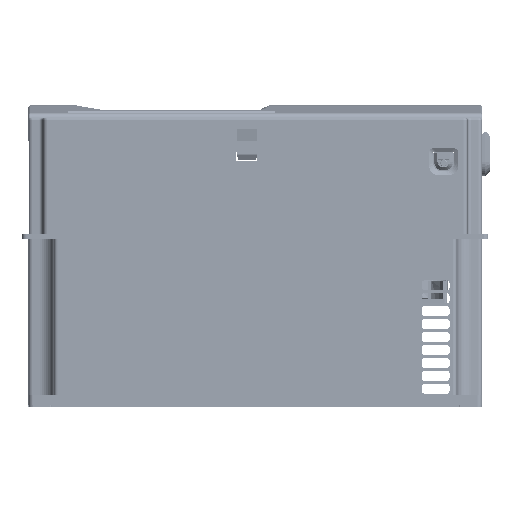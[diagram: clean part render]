
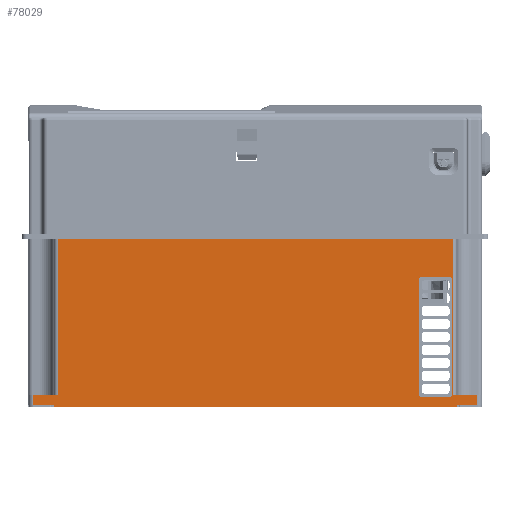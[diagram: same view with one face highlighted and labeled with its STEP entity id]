
A CAD part, left-side view. The second image highlights one B-rep face of the part: STEP entity #78029.
In plain terms, the highlighted planar face has unit normal (-1, 0, 0).
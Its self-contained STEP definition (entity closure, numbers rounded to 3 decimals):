
#19645=DIRECTION('',(0.,0.,-1.));
#19646=VECTOR('',#19645,96.1);
#19647=CARTESIAN_POINT('',(-90.,121.932,84.5));
#19648=LINE('',#19647,#19646);
#19659=DIRECTION('',(0.,1.,0.));
#19660=VECTOR('',#19659,249.);
#19661=CARTESIAN_POINT('',(-90.,-124.508,-19.));
#19662=LINE('',#19661,#19660);
#19666=DIRECTION('',(0.,0.,1.));
#19667=VECTOR('',#19666,1.4);
#19668=CARTESIAN_POINT('',(-90.,124.492,-19.));
#19669=LINE('',#19668,#19667);
#19673=DIRECTION('',(0.,-1.,0.));
#19674=VECTOR('',#19673,15.068);
#19675=CARTESIAN_POINT('',(-90.,137.,-11.6));
#19676=LINE('',#19675,#19674);
#19680=DIRECTION('',(0.,-1.,0.));
#19681=VECTOR('',#19680,243.865);
#19682=CARTESIAN_POINT('',(-90.,121.932,84.5));
#19683=LINE('',#19682,#19681);
#19687=DIRECTION('',(0.,-1.,0.));
#19688=VECTOR('',#19687,15.139);
#19689=CARTESIAN_POINT('',(-90.,-121.932,-11.6));
#19690=LINE('',#19689,#19688);
#19694=CARTESIAN_POINT('',(-90.,-103.,-10.8));
#19695=DIRECTION('',(-1.,0.,0.));
#19696=DIRECTION('',(0.,1.,0.));
#19697=AXIS2_PLACEMENT_3D('',#19694,#19695,#19696);
#19702=DIRECTION('',(0.,-1.,0.));
#19703=VECTOR('',#19702,16.8);
#19704=CARTESIAN_POINT('',(-90.,-103.,-12.8));
#19705=LINE('',#19704,#19703);
#19709=CARTESIAN_POINT('',(-90.,-119.8,-10.8));
#19710=DIRECTION('',(-1.,0.,0.));
#19711=DIRECTION('',(0.,0.,-1.));
#19712=AXIS2_PLACEMENT_3D('',#19709,#19710,#19711);
#19717=CARTESIAN_POINT('',(-90.,-119.8,59.2));
#19718=DIRECTION('',(-1.,0.,0.));
#19719=DIRECTION('',(0.,-1.,0.));
#19720=AXIS2_PLACEMENT_3D('',#19717,#19718,#19719);
#19725=CARTESIAN_POINT('',(-90.,-103.,59.2));
#19726=DIRECTION('',(-1.,0.,0.));
#19727=DIRECTION('',(0.,0.,1.));
#19728=AXIS2_PLACEMENT_3D('',#19725,#19726,#19727);
#19740=DIRECTION('',(0.,0.,1.));
#19741=VECTOR('',#19740,6.);
#19742=CARTESIAN_POINT('',(-90.,-137.071,-17.6));
#19743=LINE('',#19742,#19741);
#19840=DIRECTION('',(0.,-1.,0.));
#19841=VECTOR('',#19840,12.563);
#19842=CARTESIAN_POINT('',(-90.,-124.508,-17.6));
#19843=LINE('',#19842,#19841);
#19981=DIRECTION('',(0.,0.,1.));
#19982=VECTOR('',#19981,96.1);
#19983=CARTESIAN_POINT('',(-90.,-121.932,-11.6));
#19984=LINE('',#19983,#19982);
#20079=DIRECTION('',(0.,0.,1.));
#20080=VECTOR('',#20079,1.4);
#20081=CARTESIAN_POINT('',(-90.,-124.508,-19.));
#20082=LINE('',#20081,#20080);
#20108=DIRECTION('',(0.,-1.,0.));
#20109=VECTOR('',#20108,12.508);
#20110=CARTESIAN_POINT('',(-90.,137.,-17.6));
#20111=LINE('',#20110,#20109);
#20211=DIRECTION('',(0.,0.,-1.));
#20212=VECTOR('',#20211,6.);
#20213=CARTESIAN_POINT('',(-90.,137.,-11.6));
#20214=LINE('',#20213,#20212);
#33943=DIRECTION('',(0.,0.,1.));
#33944=VECTOR('',#33943,70.);
#33945=CARTESIAN_POINT('',(-90.,-101.,-10.8));
#33946=LINE('',#33945,#33944);
#34375=DIRECTION('',(0.,0.,-1.));
#34376=VECTOR('',#34375,70.);
#34377=CARTESIAN_POINT('',(-90.,-121.8,59.2));
#34378=LINE('',#34377,#34376);
#34396=DIRECTION('',(0.,-1.,0.));
#34397=VECTOR('',#34396,16.8);
#34398=CARTESIAN_POINT('',(-90.,-103.,61.2));
#34399=LINE('',#34398,#34397);
#56098=CARTESIAN_POINT('',(-90.,-121.932,84.5));
#56099=VERTEX_POINT('',#56098);
#56100=CARTESIAN_POINT('',(-90.,121.932,84.5));
#56101=VERTEX_POINT('',#56100);
#60040=CARTESIAN_POINT('',(-90.,121.932,-11.6));
#60041=VERTEX_POINT('',#60040);
#60042=CARTESIAN_POINT('',(-90.,-137.071,-17.6));
#60043=CARTESIAN_POINT('',(-90.,-137.071,-11.6));
#60044=VERTEX_POINT('',#60042);
#60045=VERTEX_POINT('',#60043);
#60046=CARTESIAN_POINT('',(-90.,-124.508,-17.6));
#60047=VERTEX_POINT('',#60046);
#60048=CARTESIAN_POINT('',(-90.,-124.508,-19.));
#60049=VERTEX_POINT('',#60048);
#60050=CARTESIAN_POINT('',(-90.,124.492,-19.));
#60051=VERTEX_POINT('',#60050);
#60052=CARTESIAN_POINT('',(-90.,124.492,-17.6));
#60053=VERTEX_POINT('',#60052);
#60054=CARTESIAN_POINT('',(-90.,137.,-17.6));
#60055=VERTEX_POINT('',#60054);
#60056=CARTESIAN_POINT('',(-90.,137.,-11.6));
#60057=VERTEX_POINT('',#60056);
#60058=CARTESIAN_POINT('',(-90.,-121.932,-11.6));
#60059=VERTEX_POINT('',#60058);
#60060=CARTESIAN_POINT('',(-90.,-101.,-10.8));
#60061=CARTESIAN_POINT('',(-90.,-101.,59.2));
#60062=VERTEX_POINT('',#60060);
#60063=VERTEX_POINT('',#60061);
#60064=CARTESIAN_POINT('',(-90.,-103.,-12.8));
#60065=VERTEX_POINT('',#60064);
#60066=CARTESIAN_POINT('',(-90.,-119.8,-12.8));
#60067=VERTEX_POINT('',#60066);
#60068=CARTESIAN_POINT('',(-90.,-121.8,-10.8));
#60069=VERTEX_POINT('',#60068);
#60070=CARTESIAN_POINT('',(-90.,-121.8,59.2));
#60071=VERTEX_POINT('',#60070);
#60072=CARTESIAN_POINT('',(-90.,-119.8,61.2));
#60073=VERTEX_POINT('',#60072);
#60074=CARTESIAN_POINT('',(-90.,-103.,61.2));
#60075=VERTEX_POINT('',#60074);
#77982=CARTESIAN_POINT('',(-90.,-74.95,151.2));
#77983=DIRECTION('',(-1.,0.,0.));
#77984=DIRECTION('',(0.,0.,1.));
#77985=AXIS2_PLACEMENT_3D('',#77982,#77983,#77984);
#77986=PLANE('',#77985);
#77988=ORIENTED_EDGE('',*,*,#77987,.F.);
#77990=ORIENTED_EDGE('',*,*,#77989,.F.);
#77992=ORIENTED_EDGE('',*,*,#77991,.F.);
#77994=ORIENTED_EDGE('',*,*,#77993,.T.);
#77996=ORIENTED_EDGE('',*,*,#77995,.T.);
#77998=ORIENTED_EDGE('',*,*,#77997,.F.);
#78000=ORIENTED_EDGE('',*,*,#77999,.F.);
#78002=ORIENTED_EDGE('',*,*,#78001,.T.);
#78003=ORIENTED_EDGE('',*,*,#77973,.F.);
#78004=ORIENTED_EDGE('',*,*,#65652,.T.);
#78006=ORIENTED_EDGE('',*,*,#78005,.F.);
#78008=ORIENTED_EDGE('',*,*,#78007,.T.);
#78009=EDGE_LOOP('',(#77988,#77990,#77992,#77994,#77996,#77998,#78000,#78002,
#78003,#78004,#78006,#78008));
#78010=FACE_OUTER_BOUND('',#78009,.F.);
#78012=ORIENTED_EDGE('',*,*,#78011,.F.);
#78014=ORIENTED_EDGE('',*,*,#78013,.T.);
#78016=ORIENTED_EDGE('',*,*,#78015,.T.);
#78018=ORIENTED_EDGE('',*,*,#78017,.T.);
#78020=ORIENTED_EDGE('',*,*,#78019,.F.);
#78022=ORIENTED_EDGE('',*,*,#78021,.T.);
#78024=ORIENTED_EDGE('',*,*,#78023,.F.);
#78026=ORIENTED_EDGE('',*,*,#78025,.T.);
#78027=EDGE_LOOP('',(#78012,#78014,#78016,#78018,#78020,#78022,#78024,#78026));
#78028=FACE_BOUND('',#78027,.F.);
#78029=ADVANCED_FACE('',(#78010,#78028),#77986,.T.);
#19698=CIRCLE('',#19697,2.);
#19713=CIRCLE('',#19712,2.);
#19721=CIRCLE('',#19720,2.);
#19729=CIRCLE('',#19728,2.);
#65652=EDGE_CURVE('',#56101,#56099,#19683,.T.);
#77973=EDGE_CURVE('',#56101,#60041,#19648,.T.);
#77987=EDGE_CURVE('',#60044,#60045,#19743,.T.);
#77989=EDGE_CURVE('',#60047,#60044,#19843,.T.);
#77991=EDGE_CURVE('',#60049,#60047,#20082,.T.);
#77993=EDGE_CURVE('',#60049,#60051,#19662,.T.);
#77995=EDGE_CURVE('',#60051,#60053,#19669,.T.);
#77997=EDGE_CURVE('',#60055,#60053,#20111,.T.);
#77999=EDGE_CURVE('',#60057,#60055,#20214,.T.);
#78001=EDGE_CURVE('',#60057,#60041,#19676,.T.);
#78005=EDGE_CURVE('',#60059,#56099,#19984,.T.);
#78007=EDGE_CURVE('',#60059,#60045,#19690,.T.);
#78011=EDGE_CURVE('',#60062,#60063,#33946,.T.);
#78013=EDGE_CURVE('',#60062,#60065,#19698,.T.);
#78015=EDGE_CURVE('',#60065,#60067,#19705,.T.);
#78017=EDGE_CURVE('',#60067,#60069,#19713,.T.);
#78019=EDGE_CURVE('',#60071,#60069,#34378,.T.);
#78021=EDGE_CURVE('',#60071,#60073,#19721,.T.);
#78023=EDGE_CURVE('',#60075,#60073,#34399,.T.);
#78025=EDGE_CURVE('',#60075,#60063,#19729,.T.);
